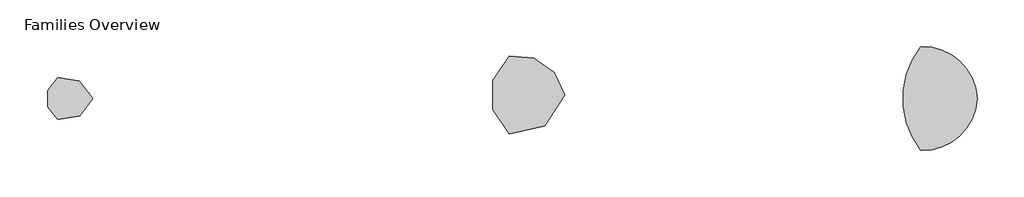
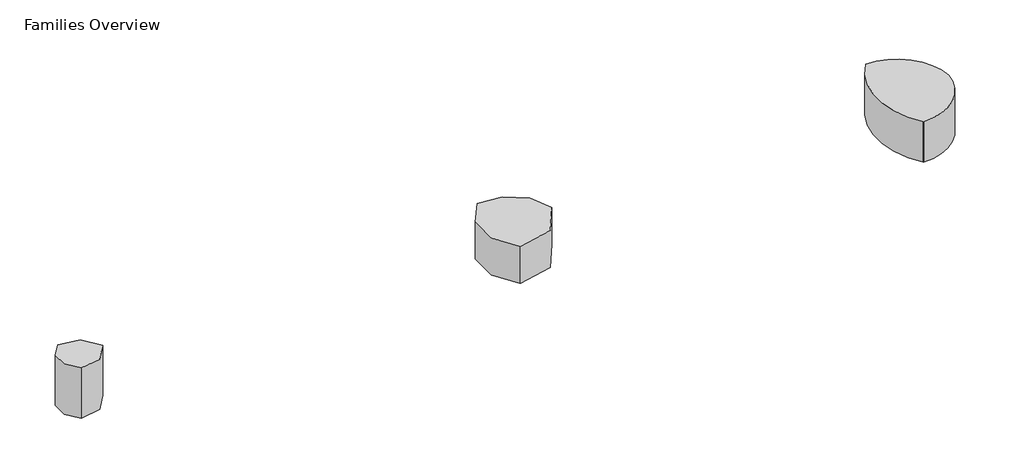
# One storey: 3 furniture elements.
"""IFC4 building model written with IfcOpenShell, lengths in millimetres."""

import ifcopenshell
import ifcopenshell.guid

model = None  # the IFC model being written
_history = None  # IfcOwnerHistory: only IFC2X3 demands one
_inside = {}  # id of a spatial element -> (the spatial element, [elements in it])
_under = {}  # id of a project, library or spatial element -> (it, [spatial elements below it])
_declared = {}  # id of a project -> (the project, [libraries it declares])
_typed = {}  # id of a type object -> (the type object, [elements of that type])
_made_of = {}  # id of a material, layer set ... -> (it, [elements and type objects made of it])


def new_model(schema):
    """Start an empty IFC model of exactly this schema.

    Asked for "IFC4X3", IfcOpenShell would pick the latest addendum, in which some entities
    have other attributes; the version numbers below select the first issue.
    IFC2X3 requires an IfcOwnerHistory on every rooted entity: one is made here for all.
    """
    global model, _history
    if schema == "IFC4X3":
        model = ifcopenshell.file(schema_version=(4, 3, 0, 0))
    else:
        model = ifcopenshell.file(schema=schema)
    _inside.clear()
    _under.clear()
    _declared.clear()
    _typed.clear()
    _made_of.clear()
    _history = None
    if model.schema == "IFC2X3":
        org = make("IfcOrganization", Name="unknown")
        user = make(
            "IfcPersonAndOrganization",
            ThePerson=make("IfcPerson", FamilyName="unknown"),
            TheOrganization=org,
        )
        app = make(
            "IfcApplication",
            ApplicationDeveloper=org,
            Version="unknown",
            ApplicationFullName="unknown",
            ApplicationIdentifier="unknown",
        )
        _history = make(
            "IfcOwnerHistory",
            OwningUser=user,
            OwningApplication=app,
            ChangeAction="ADDED",
            CreationDate=0,
        )
    return model


def make(cls, **values):
    """One entity of the class cls with the attributes given. An attribute that is None is left unset."""
    return model.create_entity(
        cls, **{name: value for name, value in values.items() if value is not None}
    )


def rooted(cls, **values):
    """An entity with a GlobalId (a new one), such as an element, a storey or a relation."""
    return make(cls, GlobalId=ifcopenshell.guid.new(), OwnerHistory=_history, **values)


def si_unit(unit_type, name, prefix=None):
    """IfcSIUnit, for example si_unit("LENGTHUNIT", "METRE", prefix="MILLI")."""
    return make("IfcSIUnit", UnitType=unit_type, Prefix=prefix, Name=name)


def assignment(units):
    """IfcUnitAssignment: the units of a project."""
    return None if units is None else make("IfcUnitAssignment", Units=units)


def point(xyz):
    """IfcCartesianPoint."""
    return None if xyz is None else make("IfcCartesianPoint", Coordinates=xyz)


def direction(xyz):
    """IfcDirection."""
    return None if xyz is None else make("IfcDirection", DirectionRatios=xyz)


def frame(location, z_axis=None, x_axis=None):
    """IfcAxis2Placement3D, a coordinate frame: its origin and axes. An axis left out is left unset."""
    return make(
        "IfcAxis2Placement3D",
        Location=point(location),
        Axis=direction(z_axis),
        RefDirection=direction(x_axis),
    )


def frame_2d(location, x_axis=None):
    """IfcAxis2Placement2D, a coordinate frame in the plane: its origin and x axis."""
    return make(
        "IfcAxis2Placement2D", Location=point(location), RefDirection=direction(x_axis)
    )


def origin():
    """The frame at (0, 0, 0) with its axes left unset."""
    return frame((0.0, 0.0, 0.0))


def origin_with_axes():
    """The frame at (0, 0, 0) with the z axis (0, 0, 1) and the x axis (1, 0, 0) written out."""
    return frame((0.0, 0.0, 0.0), z_axis=(0.0, 0.0, 1.0), x_axis=(1.0, 0.0, 0.0))


def place(relative_to, where):
    """IfcLocalPlacement: puts the frame where relative to a parent placement (None: the world)."""
    return make(
        "IfcLocalPlacement", PlacementRelTo=relative_to, RelativePlacement=where
    )


def context(
    kind, dimensions, precision=None, world=None, true_north=None, identifier=None
):
    """IfcGeometricRepresentationContext, for example the 3D "Model" context."""
    return make(
        "IfcGeometricRepresentationContext",
        ContextIdentifier=identifier,
        ContextType=kind,
        CoordinateSpaceDimension=dimensions,
        Precision=precision,
        WorldCoordinateSystem=world,
        TrueNorth=true_north,
    )


def project(units=None, contexts=None):
    """IfcProject with its units and contexts."""
    return rooted(
        "IfcProject",
        Name="project",
        RepresentationContexts=contexts,
        UnitsInContext=assignment(units),
    )


def spatial(cls, under=None, at=None, **own):
    """A site, building, storey or space (cls), placed at a placement, below another one or the project."""
    s = rooted(cls, ObjectPlacement=at, **own)
    if under is not None:
        _under.setdefault(under.id(), (under, []))[1].append(s)
    return s


def circle_curve(where, radius):
    """IfcCircle in the frame where."""
    return make("IfcCircle", Position=where, Radius=radius)


def trimmed(basis, trim1, trim2, sense, master):
    """IfcTrimmedCurve: the piece of a basis curve between two trims."""
    return make(
        "IfcTrimmedCurve",
        BasisCurve=basis,
        Trim1=trim1,
        Trim2=trim2,
        SenseAgreement=sense,
        MasterRepresentation=master,
    )


def segment(curve, same_sense, transition):
    """IfcCompositeCurveSegment."""
    return make(
        "IfcCompositeCurveSegment",
        Transition=transition,
        SameSense=same_sense,
        ParentCurve=curve,
    )


def composite_curve(segments, self_intersect=None):
    """IfcCompositeCurve: segments joined end to end."""
    return make("IfcCompositeCurve", Segments=segments, SelfIntersect=self_intersect)


def outline(outer, holes=None, kind="AREA"):
    """IfcArbitraryClosedProfileDef: a profile drawn as a closed curve; with holes, ...WithVoids."""
    if holes is None:
        return make("IfcArbitraryClosedProfileDef", ProfileType=kind, OuterCurve=outer)
    return make(
        "IfcArbitraryProfileDefWithVoids",
        ProfileType=kind,
        OuterCurve=outer,
        InnerCurves=holes,
    )


def extrude(swept, where, along, depth):
    """IfcExtrudedAreaSolid: the profile swept, set in the frame where, extruded along a direction by depth."""
    return make(
        "IfcExtrudedAreaSolid",
        SweptArea=swept,
        Position=where,
        ExtrudedDirection=direction(along),
        Depth=depth,
    )


def shape(context_of_items, identifier, shape_type, items):
    """IfcShapeRepresentation: the items that make up one representation, for example the "Body"."""
    return make(
        "IfcShapeRepresentation",
        ContextOfItems=context_of_items,
        RepresentationIdentifier=identifier,
        RepresentationType=shape_type,
        Items=items,
    )


def source(mapping_origin, context_of_items, identifier, shape_type, items):
    """IfcRepresentationMap: a shape defined once, which mapped items show again and again."""
    return make(
        "IfcRepresentationMap",
        MappingOrigin=mapping_origin,
        MappedRepresentation=shape(context_of_items, identifier, shape_type, items),
    )


def transform(
    local_origin,
    x_axis=None,
    y_axis=None,
    z_axis=None,
    scale=None,
    scale2=None,
    scale3=None,
    uniform=True,
):
    """IfcCartesianTransformationOperator3D, or its non-uniform kind. x_axis, y_axis, z_axis: its Axis1, 2, 3."""
    if uniform:
        return make(
            "IfcCartesianTransformationOperator3D",
            Axis1=direction(x_axis),
            Axis2=direction(y_axis),
            LocalOrigin=point(local_origin),
            Scale=scale,
            Axis3=direction(z_axis),
        )
    return make(
        "IfcCartesianTransformationOperator3DnonUniform",
        Axis1=direction(x_axis),
        Axis2=direction(y_axis),
        LocalOrigin=point(local_origin),
        Scale=scale,
        Axis3=direction(z_axis),
        Scale2=scale2,
        Scale3=scale3,
    )


def mapped(mapping_source, mapping_target):
    """IfcMappedItem: shows the shape of a source again, moved by a transform."""
    return make(
        "IfcMappedItem", MappingSource=mapping_source, MappingTarget=mapping_target
    )


def made_of(thing, what):
    """Note that an element or type object is made of a material, layer set ...; save() writes the relation."""
    if what is not None:
        _made_of.setdefault(what.id(), (what, []))[1].append(thing)
    return thing


def element(
    cls,
    number,
    at=None,
    inside=None,
    cuts=None,
    type_object=None,
    material=None,
    context=None,
    identifier="Body",
    shape_type=None,
    held_by="IfcProductDefinitionShape",
    body=None,
    shapes=None,
    **own,
):
    """One element of the class cls, such as IfcWall. Its Tag is "e" and its number.

    at: its placement. inside: the storey or other place that contains it. cuts: it is an
    opening in that element (IfcRelVoidsElement). A single representation is given by context,
    identifier, shape_type and body (its items); several are given by shapes. held_by: the class
    of the entity that holds the representations. save() writes the other relations.
    """
    e = rooted(cls, Tag="e%d" % number, ObjectPlacement=at, **own)
    if body is not None:
        shapes = [shape(context, identifier, shape_type, body)]
    if shapes is not None:
        e.Representation = make(held_by, Representations=shapes)
    if inside is not None:
        _inside.setdefault(inside.id(), (inside, []))[1].append(e)
    if cuts is not None:
        rooted(
            "IfcRelVoidsElement", RelatingBuildingElement=cuts, RelatedOpeningElement=e
        )
    if type_object is not None:
        _typed.setdefault(type_object.id(), (type_object, []))[1].append(e)
    return made_of(e, material)


def aggregate(whole, parts):
    """IfcRelAggregates: a whole, such as a stair, and the parts it consists of."""
    return rooted("IfcRelAggregates", RelatingObject=whole, RelatedObjects=parts)


def save(model, path):
    """Write the relations noted so far, then the file.

    IfcRelAggregates (storeys below a building ...), IfcRelContainedInSpatialStructure (elements
    in a storey), IfcRelDefinesByType, IfcRelAssociatesMaterial and IfcRelDeclares: one each for
    every whole, place, type object, material and project.
    """
    for whole, parts in _under.values():
        aggregate(whole, parts)
    for where, things in _inside.values():
        rooted(
            "IfcRelContainedInSpatialStructure",
            RelatedElements=things,
            RelatingStructure=where,
        )
    for kind, things in _typed.values():
        rooted("IfcRelDefinesByType", RelatedObjects=things, RelatingType=kind)
    for what, things in _made_of.values():
        rooted("IfcRelAssociatesMaterial", RelatedObjects=things, RelatingMaterial=what)
    for by, libraries in _declared.values():
        rooted("IfcRelDeclares", RelatingContext=by, RelatedDefinitions=libraries)
    model.write(path)


def steelcase_coalesse_soft_leaf_table_c48d6028(model_context):
    return source(origin(), model_context, "Body", "SweptSolid", [
        extrude(outline(composite_curve([segment(trimmed(circle_curve(frame_2d((632.7773947, -204.2599059)), 243.5671211), [point((498.5038857, -407.4730139))], [point((498.5038857, -1.0467979))], False, "CARTESIAN"), True, "CONTINUOUS"), segment(trimmed(circle_curve(frame_2d((556.7026288, -280.6479279)), 285.5939172), [point((498.5038857, -1.0467979))], [point((831.5947968, -203.2))], False, "CARTESIAN"), True, "CONTINUOUS"), segment(trimmed(circle_curve(frame_2d((558.4973966, -131.5911667)), 282.3296211), [point((831.5947968, -203.2))], [point((498.5038857, -407.4730139))], False, "CARTESIAN"), True, "CONTINUOUS")], self_intersect=False)), origin_with_axes(), (0.0, 0.0, 1.0), 533.4019608),
    ])


def steelcase_coalesse_soft_leaf_table_23308859(model_context):
    return source(origin(), model_context, "Body", "SweptSolid", [
        extrude(outline(composite_curve([segment(trimmed(circle_curve(frame_2d((737.6519864, -203.1882227)), 483.6427395), [point((431.796302, -577.8381924))], [point((431.796302, 171.4617471))], False, "CARTESIAN"), True, "CONTINUOUS"), segment(trimmed(circle_curve(frame_2d((514.105582, -278.3795481)), 457.3095324), [point((431.796302, 171.4617471))], [point((965.1932053, -203.2))], False, "CARTESIAN"), True, "CONTINUOUS"), segment(trimmed(circle_curve(frame_2d((510.5988922, -122.9994661)), 461.6146826), [point((965.1932053, -203.2))], [point((431.796302, -577.8381924))], False, "CARTESIAN"), True, "CONTINUOUS")], self_intersect=False)), origin_with_axes(), (0.0, 0.0, 1.0), 393.701882),
    ])


def steelcase_coalesse_soft_leaf_table_ce108bc3(model_context):
    return source(origin(), model_context, "Body", "SweptSolid", [
        extrude(outline(composite_curve([segment(trimmed(circle_curve(frame_2d((1064.3425613, -203.5202024)), 809.8052039), [point((428.2512974, -704.6912034))], [point((428.2512138, 297.6506925))], False, "CARTESIAN"), True, "CONTINUOUS"), segment(trimmed(circle_curve(frame_2d((429.2487821, 296.864717)), 1.27), [point((428.2512138, 297.6506925))], [point((429.219607, 298.1343819))], False, "CARTESIAN"), True, "CONTINUOUS"), segment(trimmed(circle_curve(frame_2d((441.4167814, -232.6713301)), 530.9458305), [point((429.219607, 298.1343819))], [point((971.544045, -203.2))], False, "CARTESIAN"), True, "CONTINUOUS"), segment(trimmed(circle_curve(frame_2d((441.5059661, -174.5027284)), 530.8143729), [point((971.544045, -203.2))], [point((429.2194695, -705.1748875))], False, "CARTESIAN"), True, "CONTINUOUS"), segment(trimmed(circle_curve(frame_2d((429.2488656, -703.9052278)), 1.27), [point((429.2194695, -705.1748875))], [point((428.2512974, -704.6912034))], False, "CARTESIAN"), True, "CONTINUOUS")], self_intersect=False)), origin_with_axes(), (0.0, 0.0, 1.0), 431.7999785),
    ])


model = new_model("IFC4")

# Units and contexts
model_context = context("Model", 3, world=origin())
ifc_project = project(units=[si_unit("LENGTHUNIT", "METRE", prefix="MILLI")], contexts=[model_context])

# Site, building, storey
site = spatial("IfcSite", under=ifc_project)
building = spatial("IfcBuilding", under=site)
storey = spatial("IfcBuildingStorey", under=building, Name="Families Overview", Elevation=0.0)

# Furniture
placement = place(None, origin())
steelcase_coalesse_soft_leaf_table_shape = steelcase_coalesse_soft_leaf_table_c48d6028(model_context)
element("IfcFurniture", 1, ObjectType="Steelcase Coalesse - Soft Leaf - Table : 16D x 17 1/2W", at=placement, inside=storey, context=model_context, shape_type="MappedRepresentation", body=[
    mapped(steelcase_coalesse_soft_leaf_table_shape, transform((-24523.8105672, 22843.0337522, 0.0), x_axis=(1.0, 0.0, 0.0), y_axis=(0.0, 1.0, 0.0), z_axis=(0.0, 0.0, 1.0))),
])
steelcase_coalesse_soft_leaf_table_2_shape = steelcase_coalesse_soft_leaf_table_23308859(model_context)
element("IfcFurniture", 2, ObjectType="Steelcase Coalesse - Soft Leaf - Table : 29 1/2D x 28W", at=placement, inside=storey, context=model_context, shape_type="MappedRepresentation", body=[
    mapped(steelcase_coalesse_soft_leaf_table_2_shape, transform((-20119.9883899, 22876.2069453, 0.0), x_axis=(1.0, 0.0, 0.0), y_axis=(0.0, 1.0, 0.0), z_axis=(0.0, 0.0, 1.0))),
])
steelcase_coalesse_soft_leaf_table_3_shape = steelcase_coalesse_soft_leaf_table_ce108bc3(model_context)
element("IfcFurniture", 3, ObjectType="Steelcase Coalesse - Soft Leaf - Table : 39 1/2D x 28 1/2W", at=placement, inside=storey, context=model_context, shape_type="MappedRepresentation", body=[
    mapped(steelcase_coalesse_soft_leaf_table_3_shape, transform((-16157.5883899, 22843.0337522, 0.0), x_axis=(1.0, 0.0, 0.0), y_axis=(0.0, 1.0, 0.0), z_axis=(0.0, 0.0, 1.0))),
])

save(model, "model.ifc")
